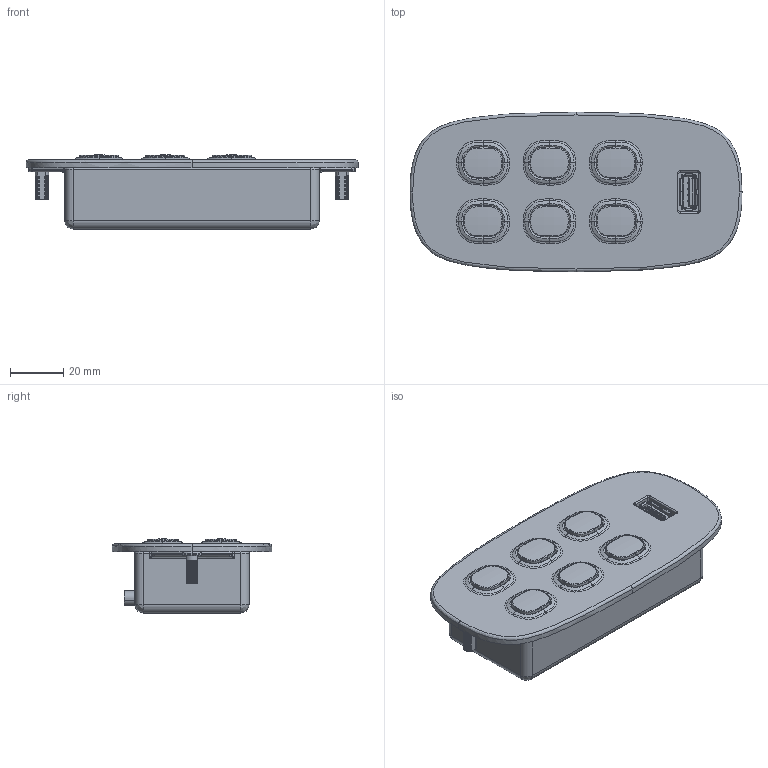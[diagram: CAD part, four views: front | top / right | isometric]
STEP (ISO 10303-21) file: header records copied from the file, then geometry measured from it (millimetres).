
FILE_DESCRIPTION (( 'STEP AP203' ), '1' );
FILE_NAME ('3D_TFH34.STEP', '2020-07-22T02:54:25', ( '' ), ( '' ), 'SwSTEP 2.0', 'SolidWorks 2015', '' );
FILE_SCHEMA (( 'CONFIG_CONTROL_DESIGN' ));
Length unit declared in the file: millimetre
Products named in the file (14): PCB-1_6key; _ｵﾚ; USB1085_asm2; USB1085_asm5; 3D_TFH34; USB1085_asm4; Handset-button; USB1085_asm3; USB1085_asm1; 呿糯屳_6key_1; USB1085_revA; ?鉺嬇薛?-31601-063-蒍烿?椇?-D; Handset-up 6KEY_1; M2.5 扷???
Assembly tree (21 placements, depth 3):
  3D_TFH34
    Handset-up 6KEY_1
    PCB-1_6key
    USB1085_revA
      USB1085_asm1
      USB1085_asm2
      USB1085_asm3
      USB1085_asm4
      USB1085_asm5
    呿糯屳_6key_1
    _ｵﾚ
    Handset-button  x2
    M2.5 扷???  x3
    ?鉺嬇薛?-31601-063-蒍烿?椇?-D  x6
Bounding box: 125 x 60 x 27.88 mm (x, y, z)
Volume: 49625.7 mm3; surface area: 57339.5 mm2
Topology: 25 solids, 34 shells, 2706 faces, 6986 edges, 4344 vertices
Faces by surface type: plane 1107, cylinder 880, bspline 700, cone 19
Entity records: 168222 total; most frequent: CARTESIAN_POINT 118048, ORIENTED_EDGE 11104, DIRECTION 8743, EDGE_CURVE 5556, VERTEX_POINT 3482, LINE 3237, VECTOR 3237, AXIS2_PLACEMENT_3D 2753
